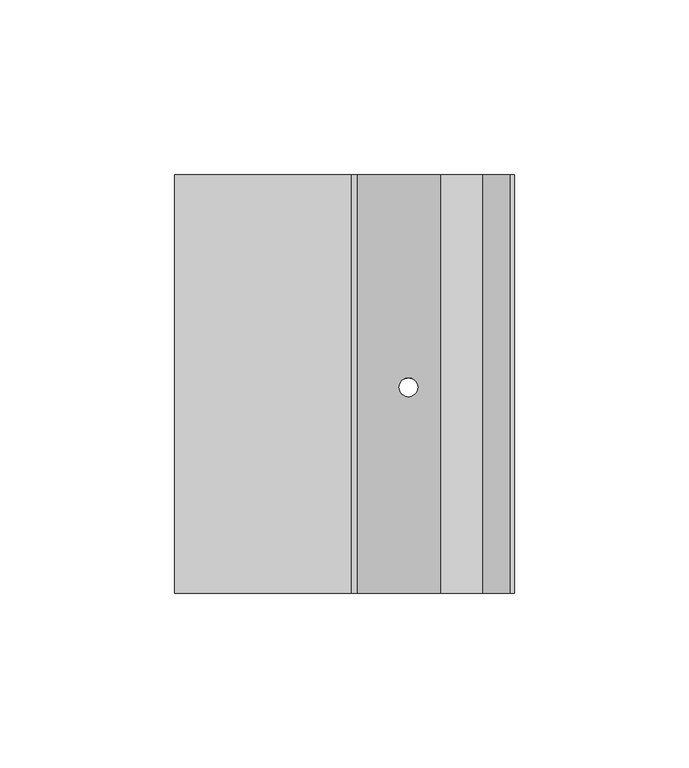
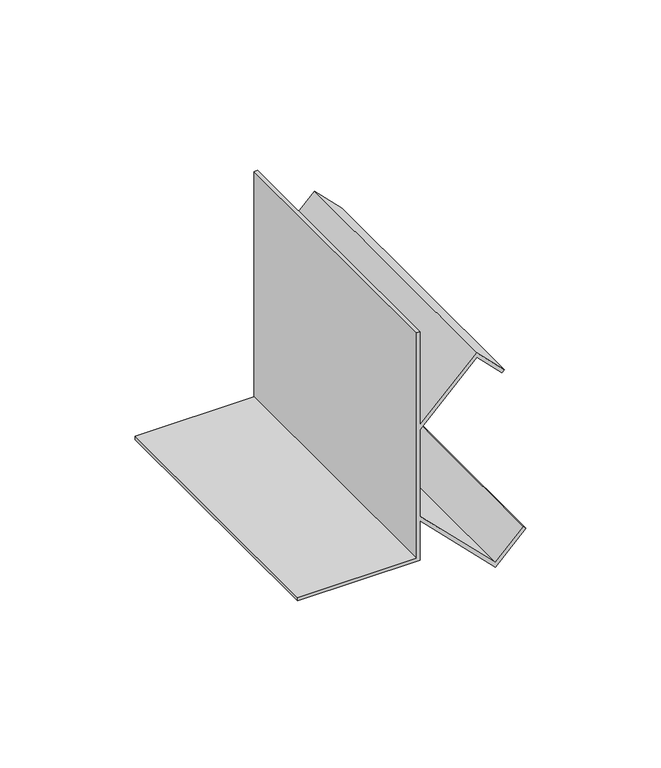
"""IFC4 building model written with IfcOpenShell, lengths in millimetres: proxy geometry, Mechanical Fittings & Accessories22 : Mechanical Fittings & Accessories."""

from ifc_helpers import new_model, si_unit, frame, origin, place, context, project, spatial, polyline, ellipse_curve, source, transform, mapped, element, save
from ifc_brep_helpers import plane_surface, revolved_surface, advanced_brep


def generic_models_ef73581c(model_context):
    return source(origin(), model_context, "Body", "AdvancedBrep", [
        advanced_brep(
        [(-13439.8639562, 2079.4963986, 4114.8), (-13490.6639562, 2079.4963986, 4114.8), (-13490.6639562, 2079.4963986, 4113.3117188), (-13438.375675, 2079.4963986, 4113.3117188), (-13438.375675, 2079.4963986, 4131.1383509), (-13406.265914, 2079.4963986, 4099.0285899), (-13393.2869427, 2079.4963986, 4112.0075612), (-13394.3393164, 2079.4963986, 4113.059935), (-13406.265914, 2079.4963986, 4101.1333374), (-13438.375675, 2079.4963986, 4133.2430984), (-13438.375675, 2079.4963986, 4172.2761118), (-13414.203414, 2079.4963986, 4196.4483729), (-13403.4674414, 2079.4963986, 4185.7124003), (-13402.4150677, 2079.4963986, 4186.7647741), (-13414.203414, 2079.4963986, 4198.5531204), (-13438.375675, 2079.4963986, 4174.3808594), (-13438.375675, 2079.4963986, 4216.4), (-13439.8639562, 2079.4963986, 4216.4), (-13439.8639562, 2199.4645457, 4114.8), (-13439.8639562, 2199.4645457, 4216.4), (-13438.375675, 2199.4645457, 4216.4), (-13438.375675, 2199.4645457, 4174.3808594), (-13414.203414, 2199.4645457, 4198.5531204), (-13402.4150677, 2199.4645457, 4186.7647741), (-13403.4674414, 2199.4645457, 4185.7124003), (-13414.203414, 2199.4645457, 4196.4483729), (-13438.375675, 2199.4645457, 4172.2761118), (-13438.375675, 2199.4645457, 4133.2430984), (-13406.265914, 2199.4645457, 4101.1333374), (-13394.3393164, 2199.4645457, 4113.059935), (-13393.2869427, 2199.4645457, 4112.0075612), (-13406.265914, 2199.4645457, 4099.0285899), (-13438.375675, 2199.4645457, 4131.1383509), (-13438.375675, 2199.4645457, 4113.3117188), (-13490.6639562, 2199.4645457, 4113.3117188), (-13490.6639562, 2199.4645457, 4114.8), (-13426.2617646, 2138.5191481, 4119.0244406), (-13420.9223978, 2138.5191481, 4113.6850737), (-13420.9223978, 2138.5191481, 4115.7898213), (-13426.2617646, 2138.5191481, 4121.1291881), (-13426.2617646, 2138.5191481, 4184.3900222), (-13420.9223978, 2138.5191481, 4189.729389), (-13420.9223978, 2138.5191481, 4191.8341365), (-13426.2617646, 2138.5191481, 4186.4947697)],
        [
            (0, 1),
            (1, 2),
            (2, 3),
            (3, 4),
            (4, 5),
            (5, 6),
            (6, 7),
            (7, 8),
            (8, 9),
            (9, 10),
            (10, 11),
            (11, 12),
            (12, 13),
            (13, 14),
            (14, 15),
            (15, 16),
            (16, 17),
            (17, 0),
            (18, 19),
            (19, 20),
            (20, 21),
            (21, 22),
            (22, 23),
            (23, 24),
            (24, 25),
            (25, 26),
            (26, 27),
            (27, 28),
            (28, 29),
            (29, 30),
            (30, 31),
            (31, 32),
            (32, 33),
            (33, 34),
            (34, 35),
            (35, 18),
            (0, 18),
            (35, 1),
            (34, 2),
            (33, 3),
            (32, 4),
            (31, 5),
            (36, 37, ellipse_curve(frame((-13423.5920812, 2138.5191481, 4116.3547571), z_axis=(0.7071067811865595, 0.0, 0.7071067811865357), x_axis=(-0.7071067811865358, 0.0, 0.7071067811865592)), 3.7755025, 2.6696834)),
            (37, 36, ellipse_curve(frame((-13423.5920812, 2138.5191481, 4116.3547571), z_axis=(0.7071067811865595, 0.0, 0.7071067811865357), x_axis=(-0.7071067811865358, 0.0, 0.7071067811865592)), 3.7755025, 2.6696834)),
            (30, 6),
            (29, 7),
            (28, 8),
            (27, 9),
            (38, 39, ellipse_curve(frame((-13423.5920812, 2138.5191481, 4118.4595047), z_axis=(-0.7071067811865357, 0.0, -0.7071067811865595), x_axis=(-0.7071067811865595, 0.0, 0.7071067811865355)), 3.7755025, 2.6696834)),
            (39, 38, ellipse_curve(frame((-13423.5920812, 2138.5191481, 4118.4595047), z_axis=(-0.7071067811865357, 0.0, -0.7071067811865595), x_axis=(-0.7071067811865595, 0.0, 0.7071067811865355)), 3.7755025, 2.6696834)),
            (26, 10),
            (25, 11),
            (40, 41, ellipse_curve(frame((-13423.5920812, 2138.5191481, 4187.0597056), z_axis=(-0.7071067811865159, 0.0, 0.7071067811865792), x_axis=(0.7071067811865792, 0.0, 0.7071067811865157)), 3.7755025, 2.6696834)),
            (41, 40, ellipse_curve(frame((-13423.5920812, 2138.5191481, 4187.0597056), z_axis=(-0.7071067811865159, 0.0, 0.7071067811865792), x_axis=(0.7071067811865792, 0.0, 0.7071067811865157)), 3.7755025, 2.6696834)),
            (24, 12),
            (23, 13),
            (22, 14),
            (21, 15),
            (42, 43, ellipse_curve(frame((-13423.5920812, 2138.5191481, 4189.1644531), z_axis=(0.7071067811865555, 0.0, -0.7071067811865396), x_axis=(0.7071067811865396, 0.0, 0.7071067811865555)), 3.7755025, 2.6696834)),
            (43, 42, ellipse_curve(frame((-13423.5920812, 2138.5191481, 4189.1644531), z_axis=(0.7071067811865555, 0.0, -0.7071067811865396), x_axis=(0.7071067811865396, 0.0, 0.7071067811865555)), 3.7755025, 2.6696834)),
            (20, 16),
            (19, 17),
            (36, 39),
            (38, 37),
            (40, 43),
            (42, 41),
        ],
        [
            plane_surface(frame((-13490.6639562, 2079.4963986, 4114.8), z_axis=(0.0, -1.0, 0.0), x_axis=(-1.0, 0.0, 0.0))),
            plane_surface(frame((-13490.6639562, 2199.4645457, 4114.8), z_axis=(0.0, 1.0, 0.0), x_axis=(1.0, 0.0, 0.0))),
            plane_surface(frame((-13439.8639562, 2079.4963986, 4114.8), z_axis=(0.0, 0.0, 1.0), x_axis=(0.0, 1.0, 0.0))),
            plane_surface(frame((-13490.6639562, 2079.4963986, 4114.8), z_axis=(-1.0, 0.0, 0.0), x_axis=(0.0, 1.0, 0.0))),
            plane_surface(frame((-13490.6639562, 2079.4963986, 4113.3117188), z_axis=(0.0, 0.0, -1.0), x_axis=(0.0, 1.0, 0.0))),
            plane_surface(frame((-13438.375675, 2079.4963986, 4113.3117188), z_axis=(1.0, 0.0, 0.0), x_axis=(0.0, 1.0, 0.0))),
            plane_surface(frame((-13438.375675, 2079.4963986, 4131.1383509), z_axis=(-0.7071067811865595, 0.0, -0.7071067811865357), x_axis=(0.0, 1.0, 0.0))),
            plane_surface(frame((-13406.265914, 2079.4963986, 4099.0285899), z_axis=(0.7071067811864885, 0.0, -0.7071067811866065), x_axis=(0.0, 1.0, 0.0))),
            plane_surface(frame((-13393.2869427, 2079.4963986, 4112.0075612), z_axis=(0.7071067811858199, 0.0, 0.7071067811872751), x_axis=(0.0, 1.0, 0.0))),
            plane_surface(frame((-13394.3393164, 2079.4963986, 4113.059935), z_axis=(-0.7071067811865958, 0.0, 0.7071067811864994), x_axis=(0.0, 1.0, 0.0))),
            plane_surface(frame((-13406.265914, 2079.4963986, 4101.1333374), z_axis=(0.7071067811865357, 0.0, 0.7071067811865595), x_axis=(0.0, 1.0, 0.0))),
            plane_surface(frame((-13438.375675, 2079.4963986, 4133.2430984), z_axis=(1.0, 0.0, 0.0), x_axis=(0.0, 1.0, 0.0))),
            plane_surface(frame((-13438.375675, 2079.4963986, 4172.2761118), z_axis=(0.7071067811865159, 0.0, -0.7071067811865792), x_axis=(0.0, 1.0, 0.0))),
            plane_surface(frame((-13414.203414, 2079.4963986, 4196.4483729), z_axis=(-0.7071067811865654, 0.0, -0.7071067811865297), x_axis=(0.0, 1.0, 0.0))),
            plane_surface(frame((-13403.4674414, 2079.4963986, 4185.7124003), z_axis=(0.7071067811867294, 0.0, -0.7071067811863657), x_axis=(0.0, 1.0, 0.0))),
            plane_surface(frame((-13402.4150677, 2079.4963986, 4186.7647741), z_axis=(0.707106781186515, 0.0, 0.70710678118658), x_axis=(0.0, 1.0, 0.0))),
            plane_surface(frame((-13414.203414, 2079.4963986, 4198.5531204), z_axis=(-0.7071067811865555, 0.0, 0.7071067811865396), x_axis=(0.0, 1.0, 0.0))),
            plane_surface(frame((-13438.375675, 2079.4963986, 4174.3808594), z_axis=(1.0, 0.0, 0.0), x_axis=(0.0, 1.0, 0.0))),
            plane_surface(frame((-13438.375675, 2079.4963986, 4216.4), z_axis=(0.0, 0.0, 1.0), x_axis=(0.0, 1.0, 0.0))),
            plane_surface(frame((-13439.8639562, 2079.4963986, 4216.4), z_axis=(-1.0, 0.0, 0.0), x_axis=(0.0, 1.0, 0.0))),
            revolved_surface(polyline([(-13420.9223978, 2138.5191481, 4121.129188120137), (-13420.9223978, 2138.5191481, 4113.685073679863)]), (-13423.5920812, 2138.5191481, 4097.2034211), (0.0, 0.0, 1.0)),
            revolved_surface(polyline([(-13420.9223978, 2138.5191481, 4191.834136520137), (-13420.9223978, 2138.5191481, 4184.390022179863)]), (-13423.5920812, 2138.5191481, 4097.2034211), (0.0, 0.0, 1.0)),
        ],
        [
            (0, [[1, 2, 3, 4, 5, 6, 7, 8, 9, 10, 11, 12, 13, 14, 15, 16, 17, 18]]),
            (1, [[19, 20, 21, 22, 23, 24, 25, 26, 27, 28, 29, 30, 31, 32, 33, 34, 35, 36]]),
            (2, [[-1, 37, -36, 38]]),
            (3, [[-2, -38, -35, 39]]),
            (4, [[-3, -39, -34, 40]]),
            (5, [[-4, -40, -33, 41]]),
            (6, [[-5, -41, -32, 42], [43, 44]]),
            (7, [[-6, -42, -31, 45]]),
            (8, [[-7, -45, -30, 46]]),
            (9, [[-8, -46, -29, 47]]),
            (10, [[-9, -47, -28, 48], [49, 50]]),
            (11, [[-10, -48, -27, 51]]),
            (12, [[-11, -51, -26, 52], [53, 54]]),
            (13, [[-12, -52, -25, 55]]),
            (14, [[-13, -55, -24, 56]]),
            (15, [[-14, -56, -23, 57]]),
            (16, [[-15, -57, -22, 58], [59, 60]]),
            (17, [[-16, -58, -21, 61]]),
            (18, [[-17, -61, -20, 62]]),
            (19, [[-18, -62, -19, -37]]),
            (20, [[63, -49, 64, -43]]),
            (21, [[65, -59, 66, -53]]),
            (20, [[-63, -44, -64, -50]]),
            (21, [[-65, -54, -66, -60]]),
        ],
    ),
    ])


if __name__ == "__main__":
    model = new_model("IFC4")
    model_context = context("Model", 3, world=origin())
    ifc_project = project(units=[si_unit("LENGTHUNIT", "METRE", prefix="MILLI")], contexts=[model_context])
    site = spatial("IfcSite", under=ifc_project)
    building = spatial("IfcBuilding", under=site)
    placement = place(None, origin())
    generic_models_shape = generic_models_ef73581c(model_context)
    element("IfcBuildingElementProxy", 1, Name="Mechanical Fittings & Accessories22 : Mechanical Fittings & Accessories", ObjectType="Mechanical Fittings & Accessories22 : Mechanical Fittings & Accessories", at=placement, inside=building, context=model_context, shape_type="MappedRepresentation", body=[
        mapped(generic_models_shape, transform((0.0, 0.0, 0.0), x_axis=(1.0, 0.0, 0.0), y_axis=(0.0, 1.0, 0.0), z_axis=(0.0, 0.0, 1.0))),
    ])
    save(model, "model.ifc")
